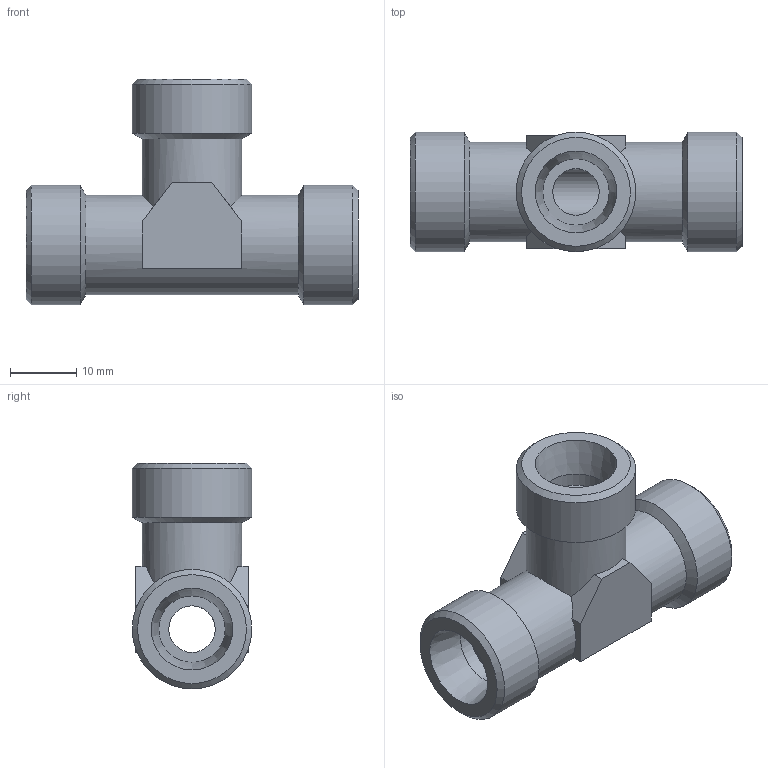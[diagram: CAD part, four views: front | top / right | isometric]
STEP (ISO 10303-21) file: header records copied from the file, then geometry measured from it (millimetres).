
FILE_DESCRIPTION( ( 'Unknown' ), '1' );
FILE_NAME( 'C:/Users/p.nanko/Desktop/3D SR/XT10S.stp', 'Unknown', ( 'Peter Nanko' ), ( 'Armaturen Arndt' ), 'PSStep 14.0', 'Solid Edge ST4', ' ' );
FILE_SCHEMA( ( 'AUTOMOTIVE_DESIGN { 1 0 10303 214 1 1 1 1 }' ) );
Length unit declared in the file: millimetre
Products named in the file (1): 1
Bounding box: 50 x 18 x 34 mm (x, y, z)
Volume: 10551.9 mm3; surface area: 5903.9 mm2
Topology: 1 solids, 1 shells, 39 faces, 95 edges, 60 vertices
Faces by surface type: plane 20, cylinder 10, cone 9
Full cylindrical faces by diameter (mm): 7 x2, 10 x3, 15 x2, 18 x3
Entity records: 1328 total; most frequent: DIRECTION 190, CARTESIAN_POINT 162, ORIENTED_EDGE 136, AXIS2_PLACEMENT_3D 82, EDGE_CURVE 68, EDGE_LOOP 66, VERTEX_POINT 54, FACE_OUTER_BOUND 49
